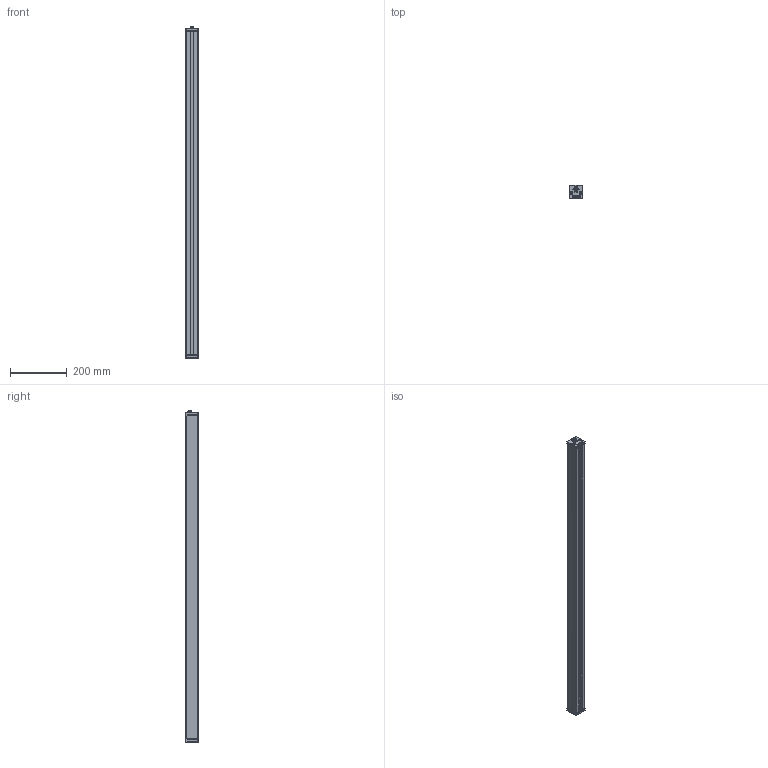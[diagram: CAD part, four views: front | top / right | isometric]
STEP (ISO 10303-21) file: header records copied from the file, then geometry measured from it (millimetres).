
FILE_DESCRIPTION (( 'STEP AP214' ), '1' );
FILE_NAME ('BARMIC16.STEP', '2012-02-17T15:02:23', ( ' ' ), ( '' ), 'SwSTEP 2.0', 'SolidWorks 2009', '' );
FILE_SCHEMA (( 'AUTOMOTIVE_DESIGN' ));
Length unit declared in the file: millimetre
Products named in the file (1): BARMIC16
Bounding box: 47 x 47 x 1173.1 mm (x, y, z)
Volume: 589973.1 mm3; surface area: 579064.1 mm2
Topology: 1 solids, 3 shells, 606 faces, 1606 edges, 1035 vertices
Faces by surface type: plane 316, cylinder 158, bspline 66, torus 38, cone 20, sphere 8
Entity records: 34388 total; most frequent: CARTESIAN_POINT 12906, ORIENTED_EDGE 3180, DIRECTION 2914, EDGE_CURVE 1590, VERTEX_POINT 1027, VECTOR 984, LINE 984, AXIS2_PLACEMENT_3D 965
